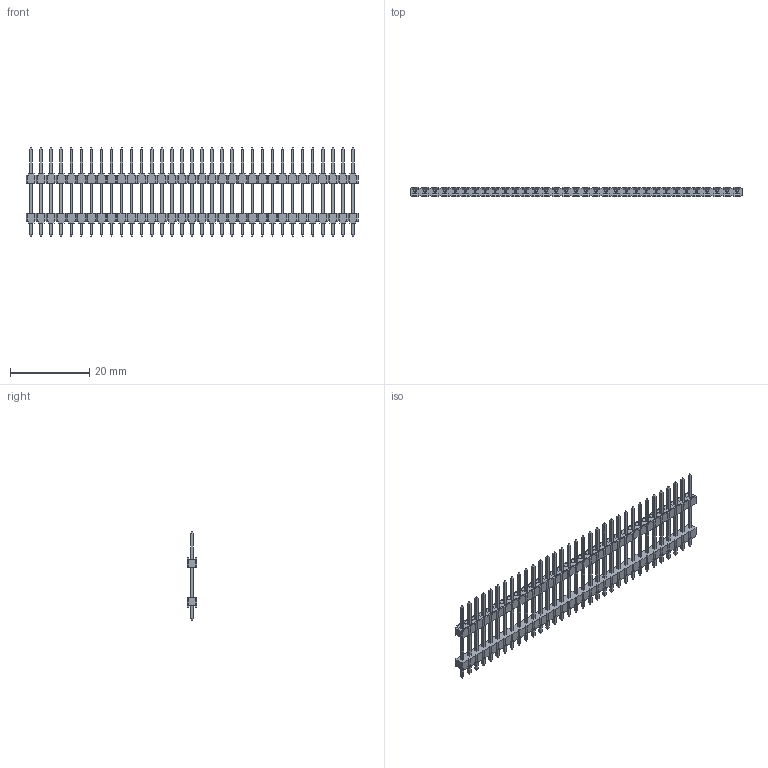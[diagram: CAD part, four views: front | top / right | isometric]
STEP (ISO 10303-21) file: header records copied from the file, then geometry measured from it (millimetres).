
FILE_DESCRIPTION(/* description */ (''),/* implementation_level */ '2;1');
FILE_NAME(/* name */ '961433-9041204-XX',/* time_stamp */ '2007-06-14T18:40:52+02:00',/* author */ (''),/* organization */ (''),/* preprocessor_version */ 'ST-DEVELOPER v9',/* originating_system */ 'UGS - NX 3.0',/* authorisation */ '');
FILE_SCHEMA (('AUTOMOTIVE_DESIGN { 1 0 10303 214 1 1 1 1 }'));
Length unit declared in the file: millimetre
Products named in the file (1): 961433-9041204-XX
Bounding box: 83.82 x 2.5 x 22.4 mm (x, y, z)
Volume: 1101.2 mm3; surface area: 3240.6 mm2
Topology: 1 solids, 1 shells, 1794 faces, 4908 edges, 3184 vertices
Faces by surface type: plane 1794
Entity records: 55372 total; most frequent: CARTESIAN_POINT 9887, ORIENTED_EDGE 9816, DIRECTION 8498, EDGE_CURVE 4908, LINE 4908, VECTOR 4908, VERTEX_POINT 3184, EDGE_LOOP 1926
